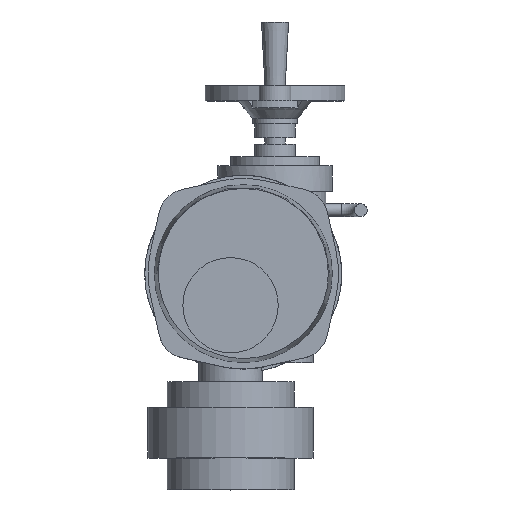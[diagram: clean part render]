
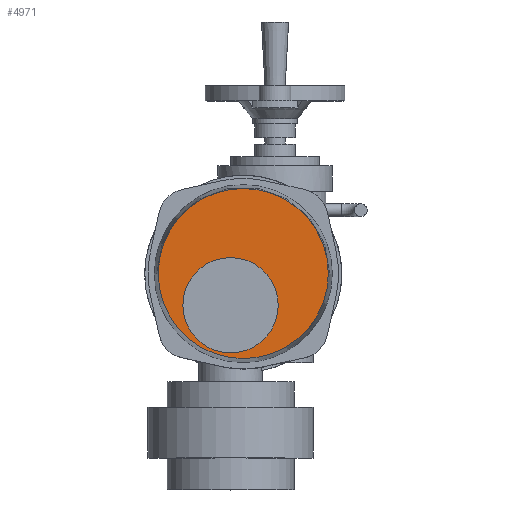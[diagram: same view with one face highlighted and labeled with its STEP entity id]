
A CAD part, top view. The second image highlights one B-rep face of the part: STEP entity #4971.
In plain terms, the highlighted planar face has unit normal (0, 0, 1).
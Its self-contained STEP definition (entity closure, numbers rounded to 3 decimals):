
#4971=ADVANCED_FACE('',(#10327,#10329),#10331,.T.);
#10327=FACE_BOUND('',#10328,.T.);
#10328=EDGE_LOOP('',(#14148));
#10329=FACE_BOUND('',#10330,.T.);
#10330=EDGE_LOOP('',(#14149));
#10331=PLANE('',#10332);
#10332=AXIS2_PLACEMENT_3D('',#10333,#10334,#10335);
#10333=CARTESIAN_POINT('',(15.,30.,372.));
#10334=DIRECTION('',(0.,0.,1.));
#10335=DIRECTION('',(-1.,0.,0.));
#14148=ORIENTED_EDGE('',*,*,#16024,.T.);
#14149=ORIENTED_EDGE('',*,*,#16863,.F.);
#16024=EDGE_CURVE('',#18575,#18575,#18576,.T.);
#16863=EDGE_CURVE('',#19833,#19833,#19834,.T.);
#18575=VERTEX_POINT('',#24571);
#18576=CIRCLE('',#24572,66.908);
#19833=VERTEX_POINT('',#27796);
#19834=CIRCLE('',#27797,37.5);
#24571=CARTESIAN_POINT('',(-51.908,30.,372.));
#24572=AXIS2_PLACEMENT_3D('',#24573,#24574,#24575);
#24573=CARTESIAN_POINT('',(15.,30.,372.));
#24574=DIRECTION('',(0.,0.,1.));
#24575=DIRECTION('',(-1.,0.,0.));
#27796=CARTESIAN_POINT('',(-32.5,5.,372.));
#27797=AXIS2_PLACEMENT_3D('',#27798,#27799,#27800);
#27798=CARTESIAN_POINT('',(5.,5.,372.));
#27799=DIRECTION('',(0.,0.,1.));
#27800=DIRECTION('',(-1.,0.,0.));
